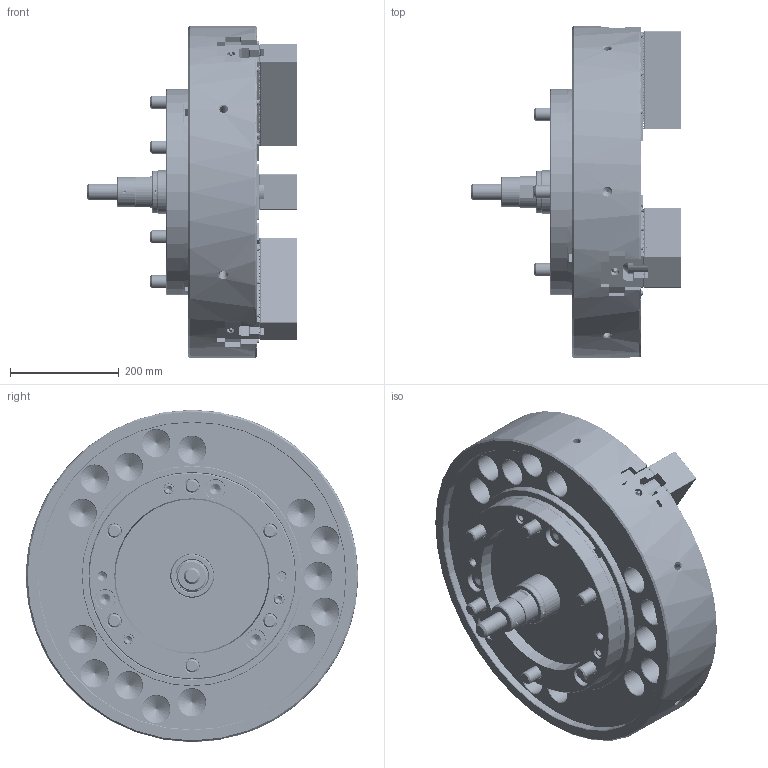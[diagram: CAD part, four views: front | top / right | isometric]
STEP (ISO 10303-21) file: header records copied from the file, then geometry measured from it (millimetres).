
FILE_DESCRIPTION (( 'STEP AP214' ), '1' );
FILE_NAME ('DT1_NV24C15_OUTSIDE_VIEW_OC.STEP', '2026-03-24T05:05:36', ( '' ), ( '' ), 'SwSTEP 2.0', 'SolidWorks 2022', '' );
FILE_SCHEMA (( 'AUTOMOTIVE_DESIGN' ));
Length unit declared in the file: millimetre
Products named in the file (18): DT1_NV24C15_S39^DT1_NV24C1500_円筒用; DT1_NV24C15_M24x160^DT1_NV24C1500; DT1_NV24C15_COVERFOOTER^DT1_NV24C1500; DT1_NV24C15_DRAWSCREW^DT1_NV24C1500; DT1_NV24C15_M12x55^DT1_NV24C1500; Copy of 61P321208^DT1_NV24C1500; DT1_NV24C15_BP^DT1_NV24C1500; DT1_NV24C15_DN^DT1_NV24C1500; DT1_NV24C15_M20x60^DT1_NV24C1500; DT1_NV24C15_OUTSIDE_VIEW_OC; DT1_NV24C15_BASE^DT1_NV24C1500; DT1_NV24C15_SOFTJAW^DT1_NV24C1500; DT1_NV24C15_ORING^DT1_NV24C1500; DT1_NV24C15_COVER^DT1_NV24C1500; DT1_NV24C15_M6x12^DT1_NV24C1500; DT1_NV24C15_P80^DT1_NV24C1500_円筒用; DT1_NV24C15_CAP^DT1_NV24C1500; DT1_NV24C15_TNUT^DT1_NV24C1500
Assembly tree (48 placements, depth 2):
  DT1_NV24C15_OUTSIDE_VIEW_OC
    DT1_NV24C15_SOFTJAW^DT1_NV24C1500  x3
    DT1_NV24C15_TNUT^DT1_NV24C1500  x6
    DT1_NV24C15_COVER^DT1_NV24C1500
    DT1_NV24C15_DRAWSCREW^DT1_NV24C1500
    Copy of 61P321208^DT1_NV24C1500
    DT1_NV24C15_COVERFOOTER^DT1_NV24C1500
    DT1_NV24C15_M6x12^DT1_NV24C1500  x6
    DT1_NV24C15_M12x55^DT1_NV24C1500  x3
    DT1_NV24C15_M20x60^DT1_NV24C1500  x6
    DT1_NV24C15_M24x160^DT1_NV24C1500  x6
    DT1_NV24C15_S39^DT1_NV24C1500_円筒用
    DT1_NV24C15_P80^DT1_NV24C1500_円筒用
    DT1_NV24C15_CAP^DT1_NV24C1500  x6
    DT1_NV24C15_ORING^DT1_NV24C1500  x3
    DT1_NV24C15_DN^DT1_NV24C1500
    DT1_NV24C15_BP^DT1_NV24C1500
    DT1_NV24C15_BASE^DT1_NV24C1500
Bounding box: 387 x 610 x 610 mm (x, y, z)
Volume: 38171908.6 mm3; surface area: 2406153.5 mm2
Topology: 48 solids, 108 shells, 9682 faces, 26828 edges, 17469 vertices
Faces by surface type: plane 5644, cylinder 1929, bspline 1005, cone 962, torus 136, sphere 6
Entity records: 274861 total; most frequent: CARTESIAN_POINT 87501, ORIENTED_EDGE 41840, DIRECTION 33715, EDGE_CURVE 20920, LINE 14581, VECTOR 14581, VERTEX_POINT 13723, AXIS2_PLACEMENT_3D 9567
